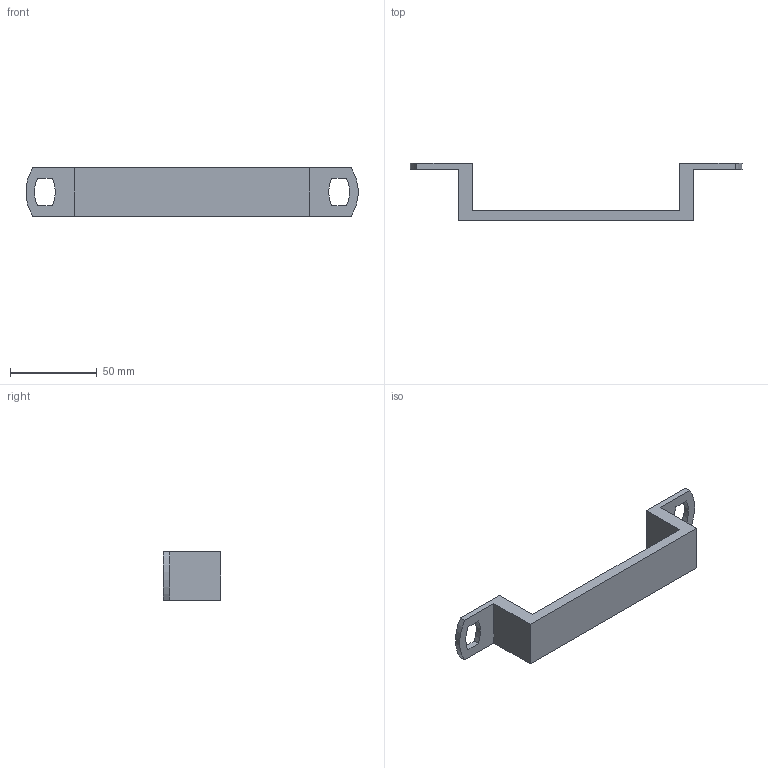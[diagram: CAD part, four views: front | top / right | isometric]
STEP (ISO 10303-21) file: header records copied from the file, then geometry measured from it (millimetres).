
FILE_DESCRIPTION( ( 'STEP AP214' ), '1' );
FILE_NAME( 'D:/Yug/2020/ProDecor_2020/QC/9266420.stp', '2020-06-01T11:48:24', ( '' ), ( '' ), ' ', 'PARTsolutions', ' ' );
FILE_SCHEMA( ( 'AUTOMOTIVE_DESIGN { 1 0 10303 214 1 1 1 1 }' ) );
Length unit declared in the file: millimetre
Products named in the file (1): _9266420
Bounding box: 191.83 x 33 x 28 mm (x, y, z)
Volume: 38751.2 mm3; surface area: 16660.9 mm2
Topology: 1 solids, 1 shells, 26 faces, 66 edges, 44 vertices
Faces by surface type: plane 18, cylinder 8
Full cylindrical faces by diameter (mm): 4 x2
Entity records: 1008 total; most frequent: CARTESIAN_POINT 135, DIRECTION 134, ORIENTED_EDGE 128, EDGE_CURVE 64, LINE 48, VECTOR 48, VERTEX_POINT 44, AXIS2_PLACEMENT_3D 43
